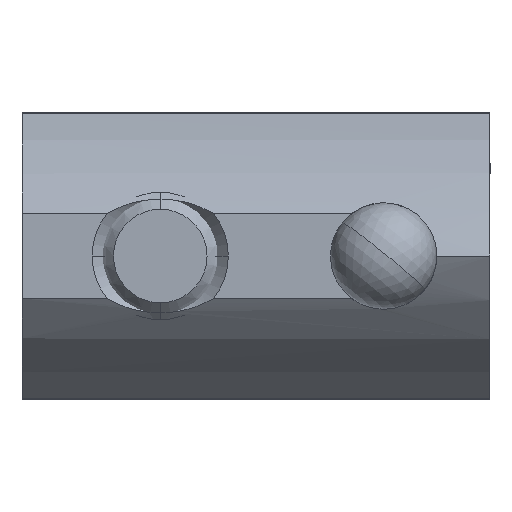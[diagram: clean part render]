
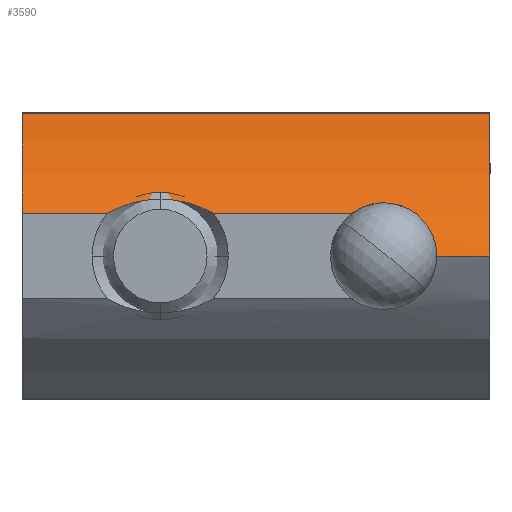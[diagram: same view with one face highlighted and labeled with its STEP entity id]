
A CAD part, left-side view. The second image highlights one B-rep face of the part: STEP entity #3590.
In plain terms, the highlighted cylindrical face has radius 15 mm (diameter 30 mm), a partial arc.
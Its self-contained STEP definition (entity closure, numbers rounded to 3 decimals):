
#2104 = CARTESIAN_POINT ( 'NONE',  ( -6.854, 3.108, -15.5 ) ) ;
#2643 = CARTESIAN_POINT ( 'NONE',  ( 2., -9., 6.5 ) ) ;
#3035 = CARTESIAN_POINT ( 'NONE',  ( 2., -9., -2.498 ) ) ;
#3495 = CARTESIAN_POINT ( 'NONE',  ( 2.438, -8.668, 1.525 ) ) ;
#3590 = ADVANCED_FACE ( 'NONE', ( #38954 ), #66151, .T. ) ;
#3961 = CARTESIAN_POINT ( 'NONE',  ( 2.35, -8.736, -11.37 ) ) ;
#5895 = VERTEX_POINT ( 'NONE', #63525 ) ;
#6127 = CIRCLE ( 'NONE', #19861, 15. ) ;
#6627 = DIRECTION ( 'NONE',  ( 0., 0., 1. ) ) ;
#7145 = AXIS2_PLACEMENT_3D ( 'NONE', #2104, #40101, #7556 ) ;
#7276 = CARTESIAN_POINT ( 'NONE',  ( 2., -9., -9. ) ) ;
#7556 = DIRECTION ( 'NONE',  ( 1., 0., 0. ) ) ;
#7834 = CARTESIAN_POINT ( 'NONE',  ( 6.702, -3.314, -15.5 ) ) ;
#8950 = CARTESIAN_POINT ( 'NONE',  ( 2.2, -8.852, 2.126 ) ) ;
#9181 = CARTESIAN_POINT ( 'NONE',  ( 2.5, -8.618, -10.681 ) ) ;
#9200 = ORIENTED_EDGE ( 'NONE', *, *, #49696, .F. ) ;
#9300 = CARTESIAN_POINT ( 'NONE',  ( 2., -9., 6.5 ) ) ;
#9414 = CARTESIAN_POINT ( 'NONE',  ( 2.125, -8.908, -11.827 ) ) ;
#10011 = LINE ( 'NONE', #40208, #29584 ) ;
#10905 = VERTEX_POINT ( 'NONE', #39027 ) ;
#12042 = CARTESIAN_POINT ( 'NONE',  ( 2.154, -8.888, -9.205 ) ) ;
#12059 = EDGE_CURVE ( 'NONE', #10905, #24179, #32930, .T. ) ;
#13052 = LINE ( 'NONE', #15934, #54675 ) ;
#13130 = ORIENTED_EDGE ( 'NONE', *, *, #21528, .T. ) ;
#13629 = ORIENTED_EDGE ( 'NONE', *, *, #52028, .F. ) ;
#14202 = CARTESIAN_POINT ( 'NONE',  ( 2.377, -8.716, -1.743 ) ) ;
#14437 = CARTESIAN_POINT ( 'NONE',  ( 2., -9., 2.498 ) ) ;
#14895 = CARTESIAN_POINT ( 'NONE',  ( 1.824, -9.127, -12.217 ) ) ;
#15934 = CARTESIAN_POINT ( 'NONE',  ( 0., -10.234, 6.5 ) ) ;
#18127 = CIRCLE ( 'NONE', #7145, 15. ) ;
#18203 = CARTESIAN_POINT ( 'NONE',  ( 2.409, -8.69, -9.82 ) ) ;
#18586 = B_SPLINE_CURVE_WITH_KNOTS ( 'NONE', 3,
 ( #3035, #68345, #14202, #52189, #19654, #57655, #25125, #63139, #30592, #68575, #36036, #3495, #41496, #8950, #46943, #14437 ),
 .UNSPECIFIED., .F., .F.,
 ( 4, 2, 2, 2, 2, 2, 2, 4 ),
 ( 0., 0.002, 0.002, 0.003, 0.004, 0.004, 0.005, 0.006 ),
 .UNSPECIFIED. ) ;
#18716 = ORIENTED_EDGE ( 'NONE', *, *, #64401, .T. ) ;
#19654 = CARTESIAN_POINT ( 'NONE',  ( 2.599, -8.538, -0.891 ) ) ;
#19861 = AXIS2_PLACEMENT_3D ( 'NONE', #39176, #6627, #44621 ) ;
#20341 = CARTESIAN_POINT ( 'NONE',  ( 1.207, -9.546, -12.711 ) ) ;
#20489 = VERTEX_POINT ( 'NONE', #39260 ) ;
#20541 = VECTOR ( 'NONE', #25702, 1000. ) ;
#21528 = EDGE_CURVE ( 'NONE', #28991, #69669, #10011, .T. ) ;
#22370 = ORIENTED_EDGE ( 'NONE', *, *, #12059, .T. ) ;
#23671 = CARTESIAN_POINT ( 'NONE',  ( 2.488, -8.628, -10.22 ) ) ;
#24179 = VERTEX_POINT ( 'NONE', #30349 ) ;
#25125 = CARTESIAN_POINT ( 'NONE',  ( 2.675, -8.476, -0.229 ) ) ;
#25623 = CARTESIAN_POINT ( 'NONE',  ( 0., -10.234, -13. ) ) ;
#25702 = DIRECTION ( 'NONE',  ( 0., 0., -1. ) ) ;
#25819 = CARTESIAN_POINT ( 'NONE',  ( 0.316, -10.072, -13. ) ) ;
#28782 = DIRECTION ( 'NONE',  ( 1., 0., 0. ) ) ;
#28991 = VERTEX_POINT ( 'NONE', #7834 ) ;
#29135 = CARTESIAN_POINT ( 'NONE',  ( 2.5, -8.618, -10.5 ) ) ;
#29584 = VECTOR ( 'NONE', #51118, 1000. ) ;
#30349 = CARTESIAN_POINT ( 'NONE',  ( 2.5, -8.618, -10.5 ) ) ;
#30592 = CARTESIAN_POINT ( 'NONE',  ( 2.66, -8.488, 0.446 ) ) ;
#31723 = EDGE_LOOP ( 'NONE', ( #32121, #35638, #22370, #55144, #13629, #40657, #13130, #9200, #18716 ) ) ;
#32121 = ORIENTED_EDGE ( 'NONE', *, *, #42640, .F. ) ;
#32930 = B_SPLINE_CURVE_WITH_KNOTS ( 'NONE', 3,
 ( #7276, #12042, #50731, #18203, #56203, #23671, #61684, #29135 ),
 .UNSPECIFIED., .F., .F.,
 ( 4, 2, 2, 4 ),
 ( 0., 0.001, 0.001, 0.002 ),
 .UNSPECIFIED. ) ;
#34986 = LINE ( 'NONE', #9300, #20541 ) ;
#35201 = CARTESIAN_POINT ( 'NONE',  ( -6.854, 3.108, 6.5 ) ) ;
#35638 = ORIENTED_EDGE ( 'NONE', *, *, #65644, .T. ) ;
#35709 = CARTESIAN_POINT ( 'NONE',  ( 2., -9., 2.498 ) ) ;
#36036 = CARTESIAN_POINT ( 'NONE',  ( 2.555, -8.574, 1.101 ) ) ;
#36497 = CARTESIAN_POINT ( 'NONE',  ( 2.406, -8.693, -11.202 ) ) ;
#37869 = EDGE_CURVE ( 'NONE', #56470, #28991, #18127, .T. ) ;
#38954 = FACE_OUTER_BOUND ( 'NONE', #31723, .T. ) ;
#39027 = CARTESIAN_POINT ( 'NONE',  ( 2., -9., -9. ) ) ;
#39176 = CARTESIAN_POINT ( 'NONE',  ( -6.854, 3.108, 6.5 ) ) ;
#39260 = CARTESIAN_POINT ( 'NONE',  ( 2., -9., 6.5 ) ) ;
#40096 = VECTOR ( 'NONE', #40644, 1000. ) ;
#40101 = DIRECTION ( 'NONE',  ( 0., 0., 1. ) ) ;
#40208 = CARTESIAN_POINT ( 'NONE',  ( 6.702, -3.314, 6.5 ) ) ;
#40644 = DIRECTION ( 'NONE',  ( 0., 0., -1. ) ) ;
#40657 = ORIENTED_EDGE ( 'NONE', *, *, #37869, .T. ) ;
#41496 = CARTESIAN_POINT ( 'NONE',  ( 2.366, -8.724, 1.731 ) ) ;
#41964 = CARTESIAN_POINT ( 'NONE',  ( 2.21, -8.844, -11.68 ) ) ;
#42640 = EDGE_CURVE ( 'NONE', #5895, #56026, #18586, .T. ) ;
#43161 = EDGE_CURVE ( 'NONE', #24179, #68665, #66519, .T. ) ;
#44621 = DIRECTION ( 'NONE',  ( 1., 0., 0. ) ) ;
#46497 = AXIS2_PLACEMENT_3D ( 'NONE', #35201, #67733, #28782 ) ;
#46943 = CARTESIAN_POINT ( 'NONE',  ( 2.105, -8.923, 2.315 ) ) ;
#47403 = CARTESIAN_POINT ( 'NONE',  ( 1.932, -9.05, -12.096 ) ) ;
#48456 = DIRECTION ( 'NONE',  ( 0., 0., 1. ) ) ;
#49696 = EDGE_CURVE ( 'NONE', #20489, #69669, #6127, .T. ) ;
#50731 = CARTESIAN_POINT ( 'NONE',  ( 2.278, -8.792, -9.435 ) ) ;
#51118 = DIRECTION ( 'NONE',  ( 0., 0., 1. ) ) ;
#52028 = EDGE_CURVE ( 'NONE', #56470, #68665, #13052, .T. ) ;
#52189 = CARTESIAN_POINT ( 'NONE',  ( 2.553, -8.576, -1.11 ) ) ;
#52880 = CARTESIAN_POINT ( 'NONE',  ( 1.477, -9.369, -12.542 ) ) ;
#53018 = CARTESIAN_POINT ( 'NONE',  ( 0., -10.234, -15.5 ) ) ;
#54675 = VECTOR ( 'NONE', #48456, 1000. ) ;
#55144 = ORIENTED_EDGE ( 'NONE', *, *, #43161, .T. ) ;
#56026 = VERTEX_POINT ( 'NONE', #35709 ) ;
#56203 = CARTESIAN_POINT ( 'NONE',  ( 2.443, -8.664, -9.951 ) ) ;
#56470 = VERTEX_POINT ( 'NONE', #53018 ) ;
#57655 = CARTESIAN_POINT ( 'NONE',  ( 2.66, -8.489, -0.451 ) ) ;
#58121 = CARTESIAN_POINT ( 'NONE',  ( 2.5, -8.618, -10.5 ) ) ;
#58344 = CARTESIAN_POINT ( 'NONE',  ( 0.63, -9.896, -12.939 ) ) ;
#60019 = CARTESIAN_POINT ( 'NONE',  ( 6.702, -3.314, 6.5 ) ) ;
#61684 = CARTESIAN_POINT ( 'NONE',  ( 2.5, -8.618, -10.36 ) ) ;
#63139 = CARTESIAN_POINT ( 'NONE',  ( 2.676, -8.476, 0.22 ) ) ;
#63525 = CARTESIAN_POINT ( 'NONE',  ( 2., -9., -2.498 ) ) ;
#63818 = CARTESIAN_POINT ( 'NONE',  ( 0., -10.234, -13. ) ) ;
#64401 = EDGE_CURVE ( 'NONE', #20489, #56026, #69007, .T. ) ;
#65644 = EDGE_CURVE ( 'NONE', #5895, #10905, #34986, .T. ) ;
#66151 = CYLINDRICAL_SURFACE ( 'NONE', #46497, 15. ) ;
#66519 = B_SPLINE_CURVE_WITH_KNOTS ( 'NONE', 3,
 ( #58121, #9181, #69042, #36497, #3961, #41964, #9414, #47403, #14895, #52880, #20341, #58344, #25819, #63818 ),
 .UNSPECIFIED., .F., .F.,
 ( 4, 2, 2, 2, 2, 2, 4 ),
 ( 0.002, 0.002, 0.003, 0.003, 0.004, 0.005, 0.006 ),
 .UNSPECIFIED. ) ;
#67733 = DIRECTION ( 'NONE',  ( 0., 0., 1. ) ) ;
#68345 = CARTESIAN_POINT ( 'NONE',  ( 2.21, -8.847, -2.133 ) ) ;
#68575 = CARTESIAN_POINT ( 'NONE',  ( 2.6, -8.538, 0.885 ) ) ;
#68665 = VERTEX_POINT ( 'NONE', #25623 ) ;
#69007 = LINE ( 'NONE', #2643, #40096 ) ;
#69042 = CARTESIAN_POINT ( 'NONE',  ( 2.481, -8.634, -10.857 ) ) ;
#69669 = VERTEX_POINT ( 'NONE', #60019 ) ;
